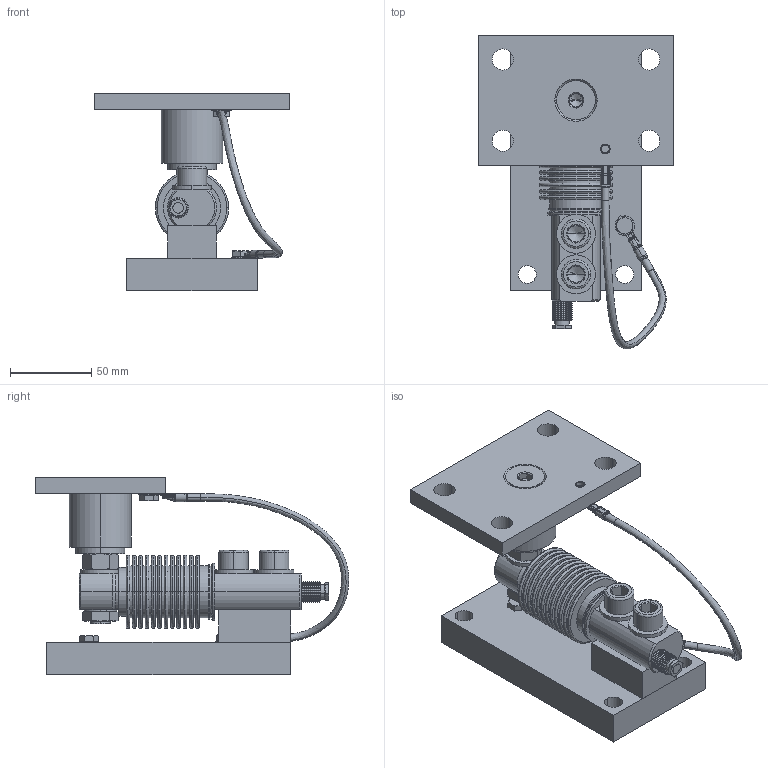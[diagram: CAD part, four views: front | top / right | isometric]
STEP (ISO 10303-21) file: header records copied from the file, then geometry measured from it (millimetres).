
FILE_DESCRIPTION((''),'1');
FILE_NAME('LMLAE_2000_kg.step','2020-06-29T14:09:25',(''),(''),'','','');
FILE_SCHEMA(('AUTOMOTIVE_DESIGN { 1 0 10303 214 1 1 1 1 }'));
Products named in the file (27): LMLAE 2000_kg; LMLAE part 03; LMLAE part 04; LMLAE part 06; LMLAE cable 01; LMLAE part 07; LMLAE cable 02; LMLAE screw 01; LMLAE screw 02; LMLAE part 08; LMLAE part 09; LMLAE part 10; LMLAE part 12; LMLAE part 13; LMLAE nut 01; LMLAE screw 03; LMLAE screw 04; LMLAE load cell 01; LMLAE body 01; LMLAE cable gland 01; LMLAE screw 05; LMLAE nut 02; LMLAE part 14; LMLAE screw 06; LMLAE part 15
Assembly tree (33 placements, depth 4):
  LMLAE 2000_kg
    LMLAE 2000_kg
    LMLAE part 07
      LMLAE part 03
        LMLAE part 04
        LMLAE part 06
        LMLAE cable 01
      LMLAE cable 02
      LMLAE part 03
        LMLAE part 04
        LMLAE part 06
        LMLAE cable 01
    LMLAE screw 01  x2
    LMLAE screw 02
    LMLAE part 08
    LMLAE part 13
      LMLAE part 09
        LMLAE part 10
        LMLAE part 12
    LMLAE nut 01
    LMLAE screw 03  x3
    LMLAE screw 04  x2
    LMLAE load cell 01
      LMLAE body 01
      LMLAE cable gland 01
    LMLAE screw 05
    LMLAE nut 02
    LMLAE part 14
    LMLAE screw 06
    LMLAE part 15
Bounding box: 120 x 192.82 x 121.5 mm (x, y, z)
Volume: 512747.9 mm3; surface area: 149742.1 mm2
Topology: 26 solids, 33 shells, 931 faces, 2206 edges, 1363 vertices
Faces by surface type: plane 281, cylinder 270, cone 188, torus 112, bspline 76, extrusion 4
Entity records: 28852 total; most frequent: CARTESIAN_POINT 11392, DIRECTION 3741, ORIENTED_EDGE 3320, EDGE_CURVE 1674, AXIS2_PLACEMENT_3D 1555, VERTEX_POINT 1036, CIRCLE 832, EDGE_LOOP 822
